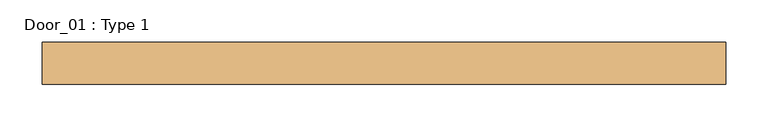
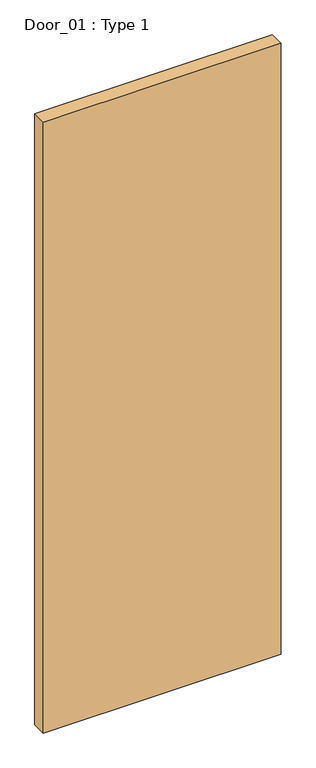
"""IFC4 building model written with IfcOpenShell, lengths in millimetres: door geometry, Door_01 : Type 1."""

from ifc_helpers import new_model, si_unit, origin, origin_with_axes, place, context, project, spatial, polyline, outline, extrude, source, transform, mapped, element, save


def door_01_type_1_045ead7d(model_context):
    return source(origin(), model_context, "Body", "SweptSolid", [
        extrude(outline(polyline([(405.0, 25.0), (-405.0, 25.0), (-405.0, 75.0), (405.0, 75.0), (405.0, 25.0)])), origin_with_axes(), (0.0, 0.0, 1.0), 2200.0),
    ])


if __name__ == "__main__":
    model = new_model("IFC4")
    model_context = context("Model", 3, world=origin())
    ifc_project = project(units=[si_unit("LENGTHUNIT", "METRE", prefix="MILLI")], contexts=[model_context])
    site = spatial("IfcSite", under=ifc_project)
    building = spatial("IfcBuilding", under=site)
    placement = place(None, origin())
    door_01_type_1_shape = door_01_type_1_045ead7d(model_context)
    element("IfcDoor", 1, ObjectType="Door_01 : Type 1", at=placement, inside=building, context=model_context, shape_type="MappedRepresentation", body=[
        mapped(door_01_type_1_shape, transform((0.0, 0.0, 0.0), x_axis=(1.0, 0.0, 0.0), y_axis=(0.0, 1.0, 0.0), z_axis=(0.0, 0.0, 1.0))),
    ])
    save(model, "model.ifc")
